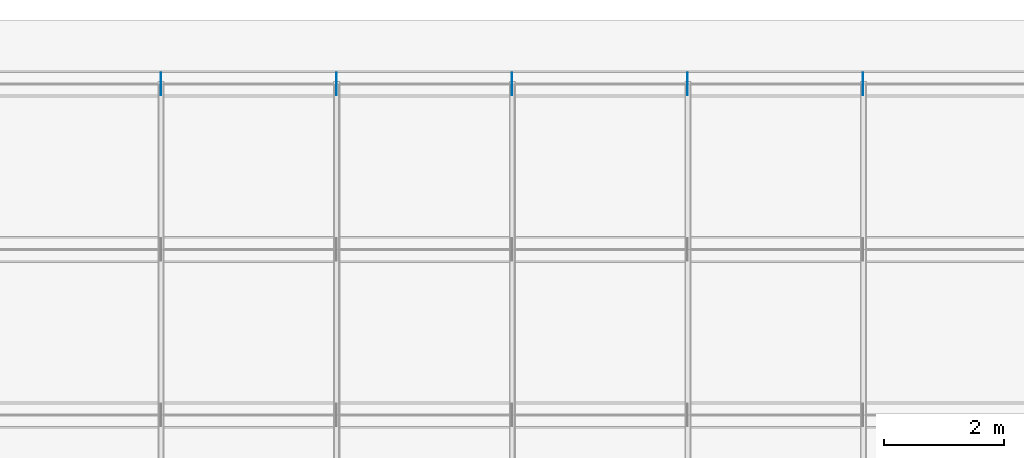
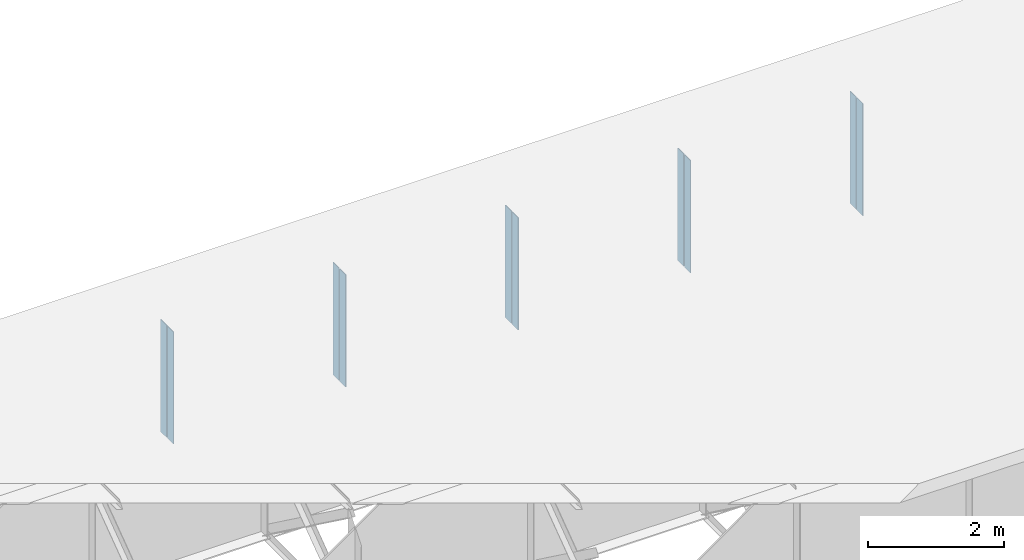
# One storey, part 12 of 13: 10 plates.
"""IFC4 building model written with IfcOpenShell, lengths in metres."""

from ifc_helpers import new_model, si_unit, frame, origin, origin_with_axes, origin_2d_with_axis, place, context, subcontext, project, spatial, rectangle, extrude, element, save


model = new_model("IFC4")

# Units and contexts
model_context = context("Model", 3, precision=1e-05, world=origin())
body_context = subcontext(model_context, "Body", "Model", "MODEL_VIEW")
ifc_project = project(units=[si_unit("LENGTHUNIT", "METRE"), si_unit("AREAUNIT", "SQUARE_METRE"), si_unit("VOLUMEUNIT", "CUBIC_METRE"), si_unit("PLANEANGLEUNIT", "RADIAN")], contexts=[model_context])

# Site, building, storey
site_placement = place(None, origin_with_axes())
site = spatial("IfcSite", under=ifc_project, at=site_placement, Name="Default Site")
building_placement = place(site_placement, origin_with_axes())
building = spatial("IfcBuilding", under=site, at=building_placement, Name="Bridge Structure")
storey_placement = place(building_placement, origin_with_axes())
storey = spatial("IfcBuildingStorey", under=building, at=storey_placement, Name="Superstructure")

# Plates
for number, where, z_axis, x_axis, name in (
    (1, (17.496, 4.22325, -1.005), (0.0, 0.0, 1.0), (1.0, 0.0, 0.0), "Intermediate Stiffener 4"),
    (2, (17.496, 4.02675, -1.005), (0.0, 0.0, 1.0), (1.0, 0.0, 0.0), "Intermediate Stiffener 4"),
    (3, (20.412, 4.22325, -1.005), (0.0, 0.0, 1.0), (1.0, 0.0, 0.0), "Intermediate Stiffener 4"),
    (4, (20.412, 4.02675, -1.005), (0.0, 0.0, 1.0), (1.0, 0.0, 0.0), "Intermediate Stiffener 4"),
    (5, (23.328, 4.22325, -1.005), (0.0, 0.0, 1.0), (1.0, 0.0, 0.0), "Intermediate Stiffener 4"),
    (6, (23.328, 4.02675, -1.005), (0.0, 0.0, 1.0), (1.0, 0.0, 0.0), "Intermediate Stiffener 4"),
    (7, (26.244, 4.22325, -1.005), (0.0, 0.0, 1.0), (1.0, 0.0, 0.0), "Intermediate Stiffener 4"),
    (8, (26.244, 4.02675, -1.005), (0.0, 0.0, 1.0), (1.0, 0.0, 0.0), "Intermediate Stiffener 4"),
    (9, (29.16, 4.22325, -1.005), (0.0, 0.0, 1.0), (1.0, 0.0, 0.0), "Intermediate Stiffener 4"),
    (10, (29.16, 4.02675, -1.005), (0.0, 0.0, 1.0), (1.0, 0.0, 0.0), "Intermediate Stiffener 4"),
):
    element("IfcPlate", number, at=place(storey_placement, frame(where, z_axis=z_axis, x_axis=x_axis)), inside=storey, Name=name, context=body_context, shape_type="SweptSolid", body=[
        extrude(rectangle(XDim=0.012, YDim=0.1785, at=origin_2d_with_axis()), origin_with_axes(), (0.0, 0.0, 1.0), 2.01),
    ])

save(model, "model.ifc")
